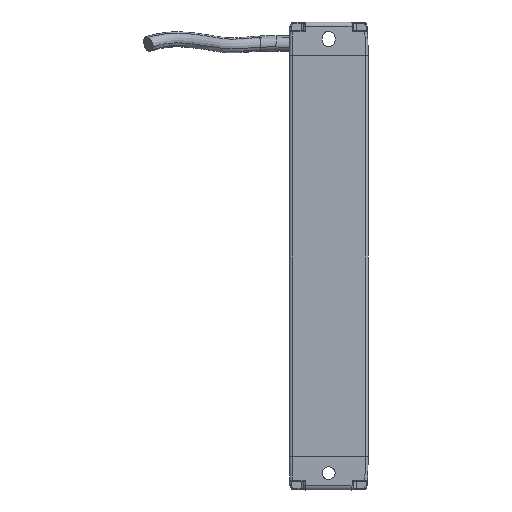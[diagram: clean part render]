
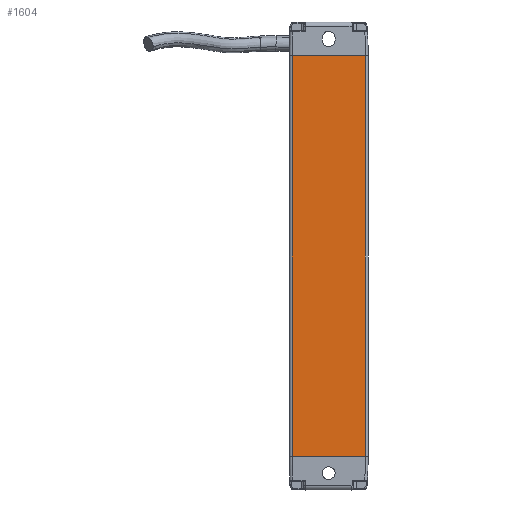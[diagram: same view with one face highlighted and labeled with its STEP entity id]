
A CAD part, front view. The second image highlights one B-rep face of the part: STEP entity #1604.
In plain terms, the highlighted planar face has unit normal (-0.001, -1, 0).
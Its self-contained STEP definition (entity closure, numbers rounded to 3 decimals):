
#1604=ADVANCED_FACE('',(#2720),#2349,.T.);
#2349=PLANE('',#14604);
#2720=FACE_OUTER_BOUND('',#3441,.T.);
#3441=EDGE_LOOP('',(#4477,#4478,#4479,#4480));
#4477=ORIENTED_EDGE('',*,*,#10104,.T.);
#4478=ORIENTED_EDGE('',*,*,#10057,.F.);
#4479=ORIENTED_EDGE('',*,*,#10102,.T.);
#4480=ORIENTED_EDGE('',*,*,#10105,.T.);
#8601=VERTEX_POINT('',#19845);
#8602=VERTEX_POINT('',#19847);
#8639=VERTEX_POINT('',#19936);
#8640=VERTEX_POINT('',#19940);
#10057=EDGE_CURVE('',#8601,#8602,#12174,.T.);
#10102=EDGE_CURVE('',#8601,#8639,#12205,.T.);
#10104=EDGE_CURVE('',#8640,#8602,#12206,.T.);
#10105=EDGE_CURVE('',#8639,#8640,#12207,.T.);
#12174=LINE('',#19846,#13389);
#12205=LINE('',#19935,#13420);
#12206=LINE('',#19939,#13421);
#12207=LINE('',#19941,#13422);
#13389=VECTOR('',#16033,1.);
#13420=VECTOR('',#16106,1.);
#13421=VECTOR('',#16111,1.);
#13422=VECTOR('',#16112,1.);
#14604=AXIS2_PLACEMENT_3D('',#19942,#16113,#16114);
#16033=DIRECTION('',(1.,-0.001,0.));
#16106=DIRECTION('',(0.,0.,-1.));
#16111=DIRECTION('',(0.,0.,1.));
#16112=DIRECTION('',(1.,-0.001,0.));
#16113=DIRECTION('',(-0.001,-1.,0.));
#16114=DIRECTION('',(-1.,0.001,0.));
#19845=CARTESIAN_POINT('',(53.048,-142.376,340.376));
#19846=CARTESIAN_POINT('',(79.028,-142.395,340.376));
#19847=CARTESIAN_POINT('',(79.028,-142.395,340.376));
#19935=CARTESIAN_POINT('',(53.048,-142.376,543.376));
#19936=CARTESIAN_POINT('',(53.048,-142.376,198.376));
#19939=CARTESIAN_POINT('',(79.028,-142.395,198.376));
#19940=CARTESIAN_POINT('',(79.028,-142.395,198.376));
#19941=CARTESIAN_POINT('',(53.048,-142.376,198.376));
#19942=CARTESIAN_POINT('',(79.028,-142.395,543.376));
